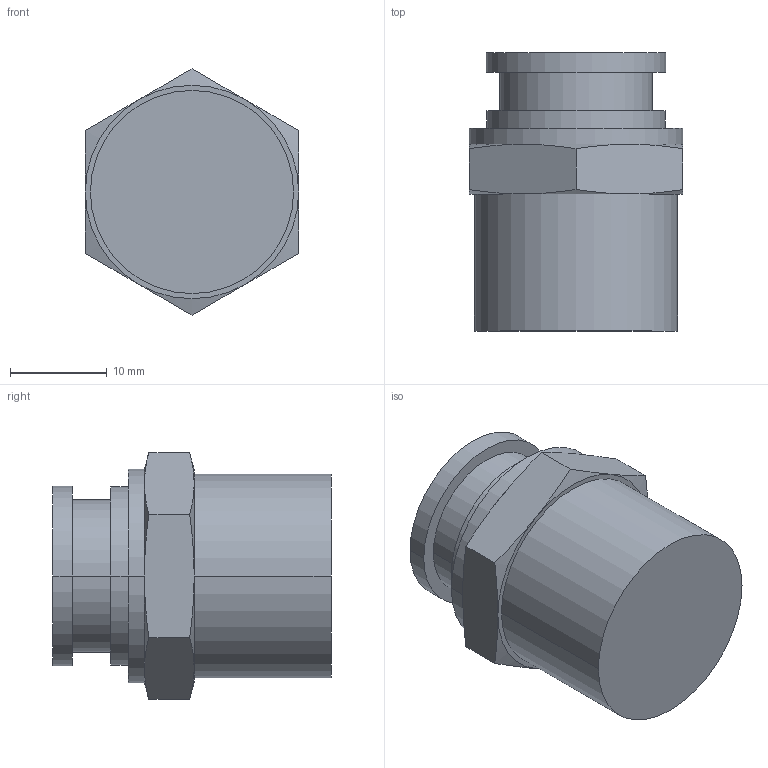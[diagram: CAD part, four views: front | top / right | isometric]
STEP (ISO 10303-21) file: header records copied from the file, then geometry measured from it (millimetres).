
FILE_DESCRIPTION( ( '' ), '1' );
FILE_NAME( 'G:/SMC狟婥/KQB2H12-04S.stp', '2023-03-07T02:28:59', ( '' ), ( '' ), ' ', ' ', ' ' );
FILE_SCHEMA( ( 'CONFIG_CONTROL_DESIGN' ) );
Length unit declared in the file: millimetre
Products named in the file (1): 1
Bounding box: 22 x 28.7 x 25.4 mm (x, y, z)
Volume: 7328.7 mm3; surface area: 3521.5 mm2
Topology: 1 solids, 1 shells, 37 faces, 76 edges, 46 vertices
Faces by surface type: plane 13, cylinder 12, cone 12
Entity records: 992 total; most frequent: CARTESIAN_POINT 208, DIRECTION 162, ORIENTED_EDGE 152, EDGE_CURVE 76, AXIS2_PLACEMENT_3D 72, VERTEX_POINT 46, EDGE_LOOP 42, ADVANCED_FACE 37
